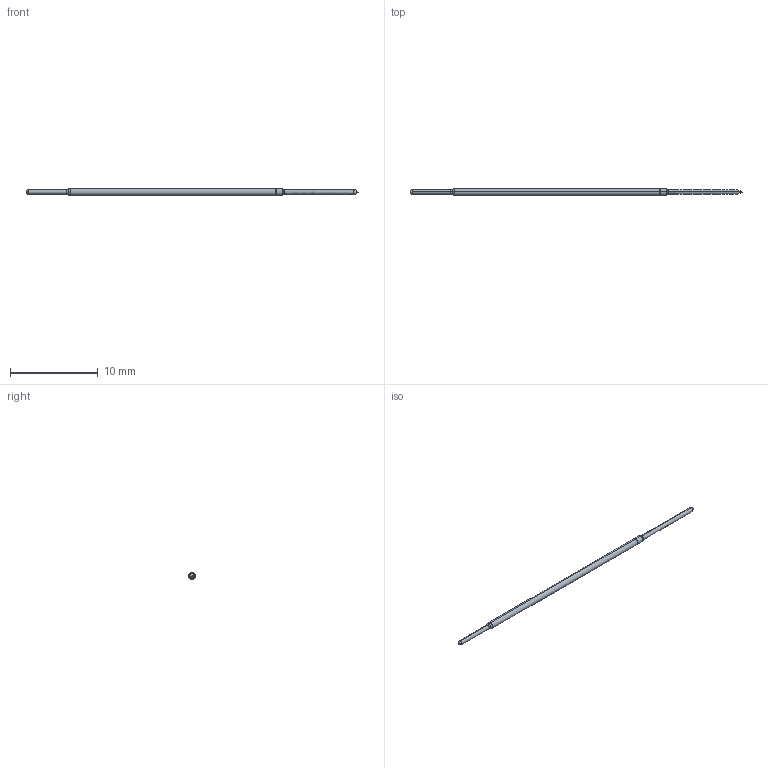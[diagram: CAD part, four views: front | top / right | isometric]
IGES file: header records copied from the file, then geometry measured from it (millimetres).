
Start section: SolidWorks IGES file using analytic representation for surfaces
Global section: file name: C:\Documents and Settings\mrumschlag\Desktop\changes\new\test\I8.IGS; native system: SolidWorks 2011; preprocessor: SolidWorks 2011; author: mrumschlag; date: 110630.142734; units: inch
Bounding box: 37.93 x 0.76 x 0.76 mm (x, y, z)
Surface area: 80.8 mm2 (no closed solid volume)
Topology: 0 solids, 0 shells, 31 faces, 178 edges, 176 vertices
Faces by surface type: bspline 17, revolution 14
